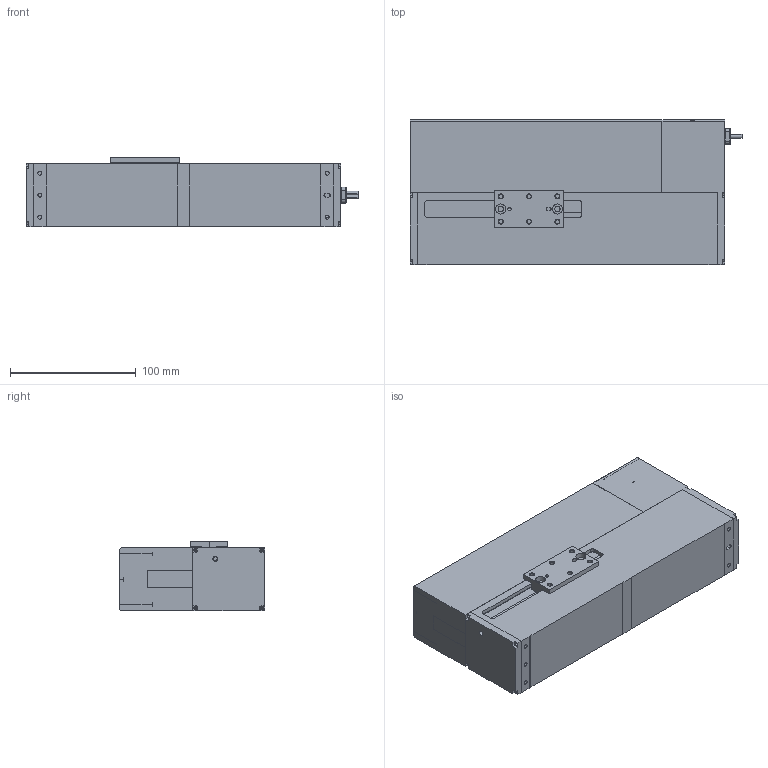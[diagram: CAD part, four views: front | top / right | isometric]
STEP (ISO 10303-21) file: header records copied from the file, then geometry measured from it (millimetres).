
FILE_DESCRIPTION (( 'STEP AP203' ), '1' );
FILE_NAME ('LCS50-050-3X-6_C.STEP', '2021-06-30T17:14:23', ( '' ), ( '' ), 'SwSTEP 2.0', 'SolidWorks 2020', '' );
FILE_SCHEMA (( 'CONFIG_CONTROL_DESIGN' ));
Length unit declared in the file: millimetre
Products named in the file (8): 110043-02_B; CABLE-G-B; 140129-01_B; 225801-01_A; 140125-01_B; 240068-01_A1; 230039-01_G; LCS50-050-3X-6_C
Assembly tree (7 placements, depth 2):
  LCS50-050-3X-6_C
    110043-02_B
    240068-01_A1
    230039-01_G
    CABLE-G-B
    225801-01_A
    140125-01_B
    140129-01_B
Bounding box: 263.5 x 115.1 x 55 mm (x, y, z)
Volume: 608164.6 mm3; surface area: 229691.3 mm2
Topology: 9 solids, 9 shells, 472 faces, 1262 edges, 791 vertices
Faces by surface type: cylinder 220, plane 178, cone 66, torus 8
Entity records: 15766 total; most frequent: CARTESIAN_POINT 2815, DIRECTION 2636, ORIENTED_EDGE 2432, EDGE_CURVE 1216, AXIS2_PLACEMENT_3D 954, VERTEX_POINT 791, LINE 728, VECTOR 728
